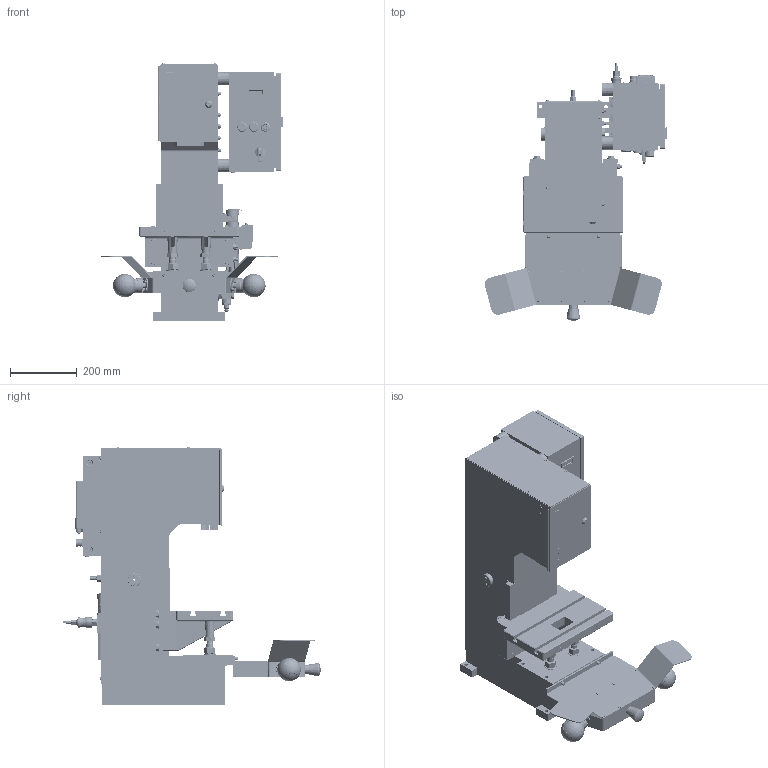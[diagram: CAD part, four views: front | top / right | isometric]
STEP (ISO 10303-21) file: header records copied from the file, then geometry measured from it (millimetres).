
FILE_DESCRIPTION(/* description */ (''),/* implementation_level */ '2;1');
FILE_NAME(/* name */ 'P:\CAD-Daten-für-Kunden\07_Pressen KHP\01_KHP Standard\mit ZS07\Presse_KHP_030kN_G700_Hub40_ANR18482+ZS07.stp',/* time_stamp */ '2021-09-14T07:34:28+02:00',/* author */ ('tse'),/* organization */ (''),/* preprocessor_version */ 'ST-DEVELOPER v18',/* originating_system */ 'Autodesk Inventor 2020',/* authorisation */ '');
FILE_SCHEMA (('AUTOMOTIVE_DESIGN { 1 0 10303 214 3 1 1 }'));
Products named in the file (10): Presse_KHP_20kN_G700_Hub40+V_ANR31990+ZS07; Ständereinheit_KHP_20-30kN_G700_V; Tischeinheit_KHP_20-30kN_ANR18477; Schlittendummy_KHP_20-30kN_ANR18473; ZS07_Steuerung_KHP_1-4_ANR_31204; Zweihand_Tasterkasten_mit_Safeballs_und_Not-Aus_ANR_30032; Pneumatik_KHP_1_4kN; 18902; 18903; ZS07_Steuerkasten_ANR_31201
Assembly tree (9 placements, depth 3):
  Presse_KHP_20kN_G700_Hub40+V_ANR31990+ZS07
    Ständereinheit_KHP_20-30kN_G700_V
    Tischeinheit_KHP_20-30kN_ANR18477
    Schlittendummy_KHP_20-30kN_ANR18473
    ZS07_Steuerung_KHP_1-4_ANR_31204
      Zweihand_Tasterkasten_mit_Safeballs_und_Not-Aus_ANR_30032
      Pneumatik_KHP_1_4kN
      18902
      18903
      ZS07_Steuerkasten_ANR_31201
Bounding box: 546.47 x 770.7 x 771.4 mm (x, y, z)
Volume: 37570205.6 mm3; surface area: 3276671.2 mm2
Topology: 16 solids, 72 shells, 16572 faces, 44805 edges, 29786 vertices
Faces by surface type: plane 9518, bspline 4133, cylinder 1887, cone 787, torus 191, sphere 56
Full cylindrical faces by diameter (mm): 0.4 x1, 0.474 x1, 0.98 x3, 1.1 x40, 1.6 x3, 1.9 x4, 2 x9, 2.013 x1, 2.1 x8, 2.387 x4, 2.459 x11, 2.5 x6, 3 x22, 3.1 x5, 3.141 x8, 3.2 x9, 3.242 x8, 3.7 x8, 3.8 x1, 4 x24, 4.1 x13, 4.134 x9, 4.2 x4, 4.3 x2, 4.4 x4, 4.5 x18, 4.8 x5, 4.9 x1, 4.917 x18, 5 x30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
Entity records: 565066 total; most frequent: CARTESIAN_POINT 155416, ORIENTED_EDGE 89410, DIRECTION 66605, EDGE_CURVE 44705, VERTEX_POINT 29792, LINE 28377, VECTOR 28377, AXIS2_PLACEMENT_3D 19114
